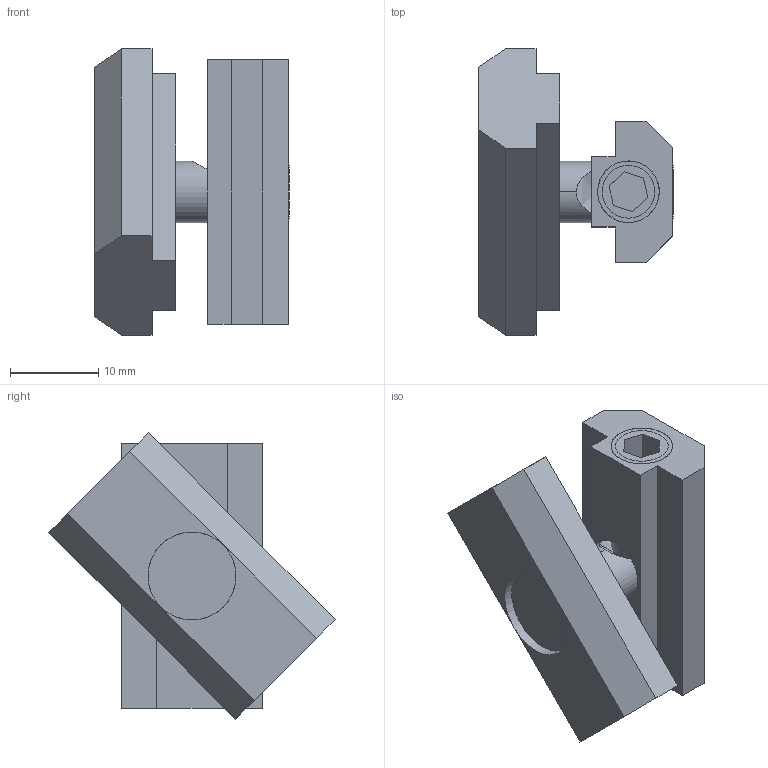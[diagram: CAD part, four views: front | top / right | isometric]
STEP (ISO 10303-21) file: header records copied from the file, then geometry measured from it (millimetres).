
FILE_DESCRIPTION (( 'STEP AP214' ), '1' );
FILE_NAME ('23122_VERPV8.SLDASM.STEP', '2016-12-01T17:00:34', ( '' ), ( '' ), 'SwSTEP 2.0', 'SolidWorks 2016', '' );
FILE_SCHEMA (( 'AUTOMOTIVE_DESIGN' ));
Length unit declared in the file: millimetre
Products named in the file (5): 7100008-2; 7100008-3; 23122_VERPV8.SLDASM; made m7x14SLDPRT; 7100008-1
Assembly tree (4 placements, depth 2):
  23122_VERPV8.SLDASM
    7100008-1
    7100008-2
    7100008-3
    made m7x14SLDPRT
Bounding box: 22.08 x 32.53 x 32.53 mm (x, y, z)
Volume: 4154.9 mm3; surface area: 5203.7 mm2
Topology: 3 solids, 5 shells, 84 faces, 220 edges, 142 vertices
Faces by surface type: plane 38, cylinder 33, cone 10, bspline 3
Entity records: 4926 total; most frequent: CARTESIAN_POINT 2780, ORIENTED_EDGE 432, DIRECTION 373, EDGE_CURVE 218, VERTEX_POINT 142, LINE 125, VECTOR 125, AXIS2_PLACEMENT_3D 124
